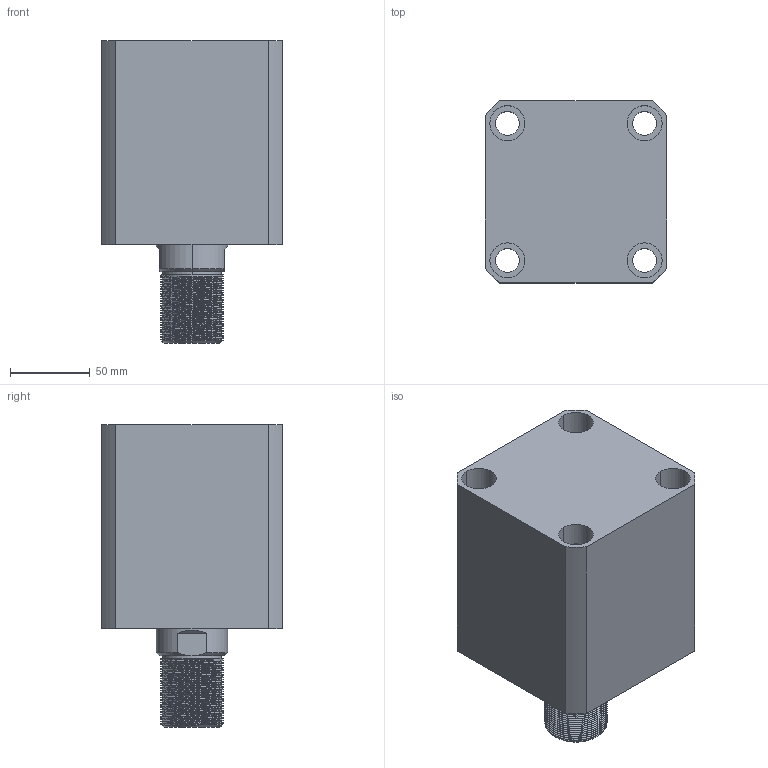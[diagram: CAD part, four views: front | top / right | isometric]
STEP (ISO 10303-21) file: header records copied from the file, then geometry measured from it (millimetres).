
FILE_DESCRIPTION (( 'STEP AP214' ), '1' );
FILE_NAME ('chtb-sdma80x50wasm.STEP', '2018-05-29T03:46:43', ( 'Windows' ), ( 'Microsoft' ), 'SwSTEP 2.0', 'SolidWorks 2015', '' );
FILE_SCHEMA (( 'AUTOMOTIVE_DESIGN' ));
Length unit declared in the file: millimetre
Products named in the file (4): CHTB-SDMA80X50NBT; CHTB-SD80X50WHSG; CHTB-SD80QG; chtb-sdma80x50wasm
Assembly tree (3 placements, depth 2):
  chtb-sdma80x50wasm
    CHTB-SD80QG
    CHTB-SD80X50WHSG
    CHTB-SDMA80X50NBT
Bounding box: 114 x 114 x 190 mm (x, y, z)
Volume: 1414644 mm3; surface area: 208309.3 mm2
Topology: 3 solids, 3 shells, 251 faces, 695 edges, 466 vertices
Faces by surface type: cylinder 163, plane 38, torus 18, bspline 16, cone 16
Entity records: 20277 total; most frequent: CARTESIAN_POINT 14301, ORIENTED_EDGE 1382, DIRECTION 1068, EDGE_CURVE 691, VERTEX_POINT 466, AXIS2_PLACEMENT_3D 433, EDGE_LOOP 289, FACE_OUTER_BOUND 251
